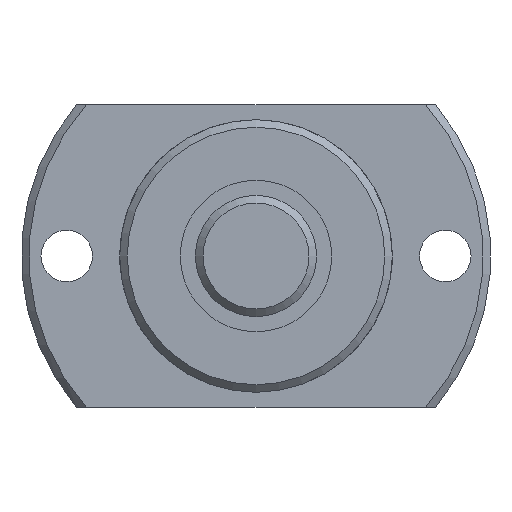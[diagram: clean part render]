
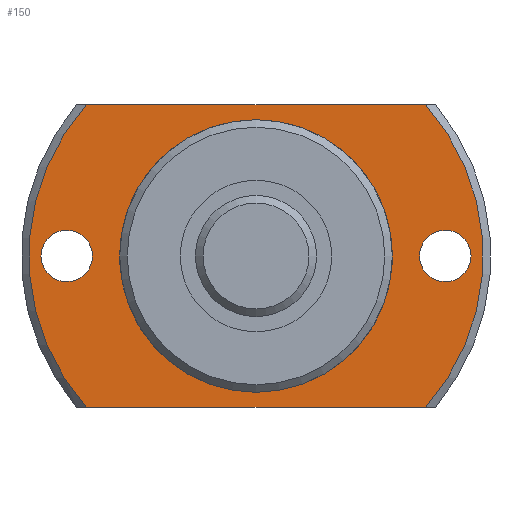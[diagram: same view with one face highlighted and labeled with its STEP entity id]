
A CAD part, left-side view. The second image highlights one B-rep face of the part: STEP entity #150.
In plain terms, the highlighted planar face has unit normal (-1, 0, 0).
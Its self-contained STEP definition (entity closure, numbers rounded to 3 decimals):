
#150 = ADVANCED_FACE( '', ( #338, #339, #340, #341 ), #342, .F. );
#338 = FACE_OUTER_BOUND( '', #602, .T. );
#339 = FACE_BOUND( '', #603, .T. );
#340 = FACE_BOUND( '', #604, .T. );
#341 = FACE_BOUND( '', #605, .T. );
#342 = PLANE( '', #606 );
#602 = EDGE_LOOP( '', ( #880, #881, #882, #883 ) );
#603 = EDGE_LOOP( '', ( #884 ) );
#604 = EDGE_LOOP( '', ( #885 ) );
#605 = EDGE_LOOP( '', ( #886 ) );
#606 = AXIS2_PLACEMENT_3D( '', #887, #888, #889 );
#880 = ORIENTED_EDGE( '', *, *, #1440, .F. );
#881 = ORIENTED_EDGE( '', *, *, #1441, .T. );
#882 = ORIENTED_EDGE( '', *, *, #1442, .F. );
#883 = ORIENTED_EDGE( '', *, *, #1430, .T. );
#884 = ORIENTED_EDGE( '', *, *, #1443, .T. );
#885 = ORIENTED_EDGE( '', *, *, #1444, .T. );
#886 = ORIENTED_EDGE( '', *, *, #1445, .T. );
#887 = CARTESIAN_POINT( '', ( 24., 8.85, 0. ) );
#888 = DIRECTION( '', ( 1., 0., 0. ) );
#889 = DIRECTION( '', ( 0., 0., -1. ) );
#1430 = EDGE_CURVE( '', #1659, #1657, #1660, .T. );
#1440 = EDGE_CURVE( '', #1675, #1657, #1676, .T. );
#1441 = EDGE_CURVE( '', #1675, #1677, #1678, .T. );
#1442 = EDGE_CURVE( '', #1659, #1677, #1679, .T. );
#1443 = EDGE_CURVE( '', #1680, #1680, #1681, .T. );
#1444 = EDGE_CURVE( '', #1682, #1682, #1683, .T. );
#1445 = EDGE_CURVE( '', #1684, #1684, #1685, .T. );
#1657 = VERTEX_POINT( '', #1984 );
#1659 = VERTEX_POINT( '', #1989 );
#1660 = LINE( '', #1990, #1991 );
#1675 = VERTEX_POINT( '', #2020 );
#1676 = CIRCLE( '', #2021, 15. );
#1677 = VERTEX_POINT( '', #2022 );
#1678 = LINE( '', #2023, #2024 );
#1679 = CIRCLE( '', #2025, 15. );
#1680 = VERTEX_POINT( '', #2026 );
#1681 = CIRCLE( '', #2027, 1.7 );
#1682 = VERTEX_POINT( '', #2028 );
#1683 = CIRCLE( '', #2029, 1.7 );
#1684 = VERTEX_POINT( '', #2030 );
#1685 = CIRCLE( '', #2031, 8.85 );
#1984 = CARTESIAN_POINT( '', ( 24., 11.18, 10. ) );
#1989 = CARTESIAN_POINT( '', ( 24., -11.18, 10. ) );
#1990 = CARTESIAN_POINT( '', ( 24., 8.85, 10. ) );
#1991 = VECTOR( '', #2434, 1000. );
#2020 = CARTESIAN_POINT( '', ( 24., 11.18, -10. ) );
#2021 = AXIS2_PLACEMENT_3D( '', #2440, #2441, #2442 );
#2022 = CARTESIAN_POINT( '', ( 24., -11.18, -10. ) );
#2023 = CARTESIAN_POINT( '', ( 24., 8.85, -10. ) );
#2024 = VECTOR( '', #2443, 1000. );
#2025 = AXIS2_PLACEMENT_3D( '', #2444, #2445, #2446 );
#2026 = CARTESIAN_POINT( '', ( 24., 12.5, -1.7 ) );
#2027 = AXIS2_PLACEMENT_3D( '', #2447, #2448, #2449 );
#2028 = CARTESIAN_POINT( '', ( 24., -12.5, -1.7 ) );
#2029 = AXIS2_PLACEMENT_3D( '', #2450, #2451, #2452 );
#2030 = CARTESIAN_POINT( '', ( 24., 0., -8.85 ) );
#2031 = AXIS2_PLACEMENT_3D( '', #2453, #2454, #2455 );
#2434 = DIRECTION( '', ( 0., 1., 0. ) );
#2440 = CARTESIAN_POINT( '', ( 24., 0., 0. ) );
#2441 = DIRECTION( '', ( 1., 0., 0. ) );
#2442 = DIRECTION( '', ( 0., 0., -1. ) );
#2443 = DIRECTION( '', ( 0., -1., 0. ) );
#2444 = CARTESIAN_POINT( '', ( 24., 0., 0. ) );
#2445 = DIRECTION( '', ( 1., 0., 0. ) );
#2446 = DIRECTION( '', ( 0., 0., -1. ) );
#2447 = CARTESIAN_POINT( '', ( 24., 12.5, 0. ) );
#2448 = DIRECTION( '', ( 1., 0., 0. ) );
#2449 = DIRECTION( '', ( 0., 0., -1. ) );
#2450 = CARTESIAN_POINT( '', ( 24., -12.5, 0. ) );
#2451 = DIRECTION( '', ( 1., 0., 0. ) );
#2452 = DIRECTION( '', ( 0., 0., -1. ) );
#2453 = CARTESIAN_POINT( '', ( 24., 0., 0. ) );
#2454 = DIRECTION( '', ( 1., 0., 0. ) );
#2455 = DIRECTION( '', ( 0., 0., -1. ) );
